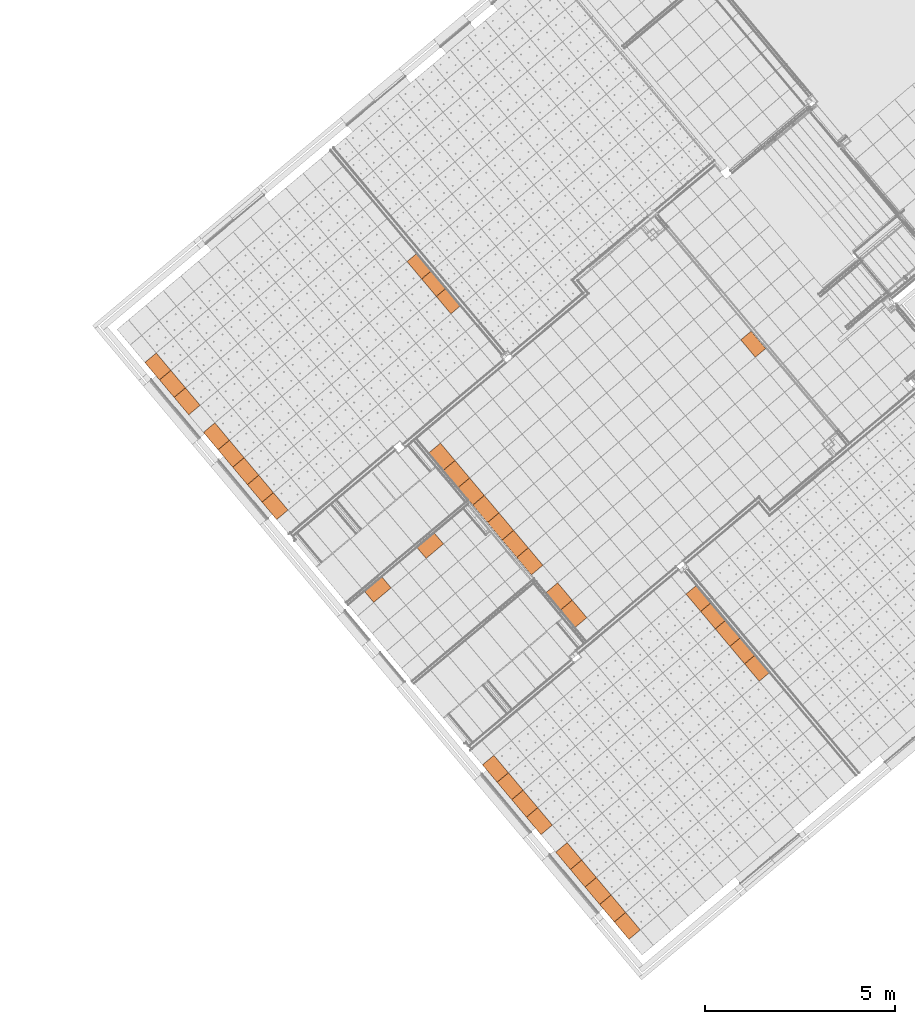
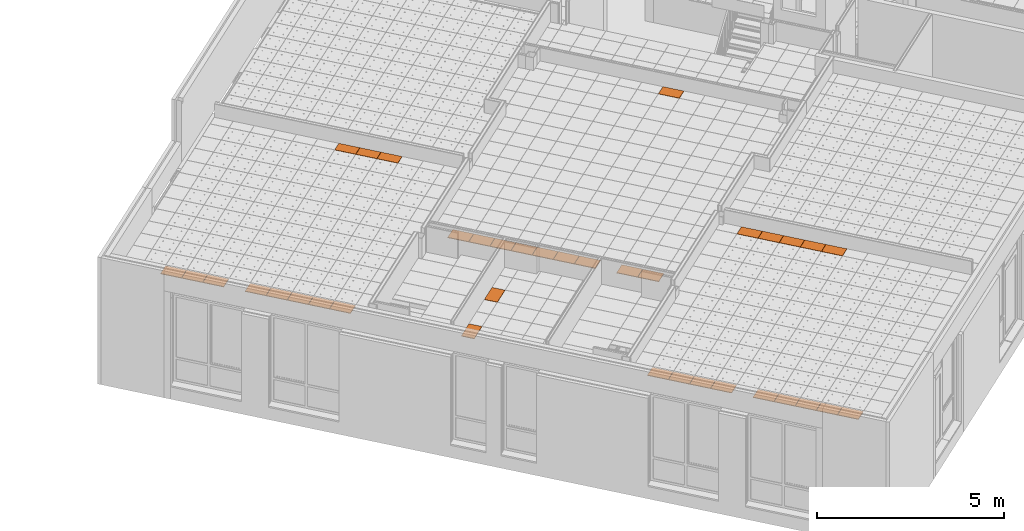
# One storey, part 199 of 338: 37 proxies, 4 elements without a shape of their own.
"""IFC2X3 building model written with IfcOpenShell, lengths in millimetres."""

from ifc_helpers import new_model, entity, si_unit, converted_unit, derived_unit, money_unit, direction, frame, origin_with_axes, place, context, subcontext, project, spatial, faceted_brep, source, transform, mapped, material, type_object, type_shapes, element, aggregate, save


model = new_model("IFC2X3")

# Units and contexts
model_context = context("Model", 3, precision=0.01, world=origin_with_axes(), true_north=direction((0.0, 1.0)))
plan_context = context("Plan", 3, precision=0.01, world=origin_with_axes(), true_north=direction((0.0, 1.0)))
body_context = subcontext(model_context, "Body", "Model", "MODEL_VIEW")
ifc_project = project(units=[si_unit("LENGTHUNIT", "METRE", prefix="MILLI"), si_unit("AREAUNIT", "SQUARE_METRE"), si_unit("VOLUMEUNIT", "CUBIC_METRE"), converted_unit("PLANEANGLEUNIT", "DEGREE", entity("IfcPlaneAngleMeasure", 0.0174532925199), si_unit("PLANEANGLEUNIT", "RADIAN"), dimensions=[0, 0, 0, 0, 0, 0, 0]), money_unit("EUR"), converted_unit("TIMEUNIT", "Year", entity("IfcTimeMeasure", 31556926.0), si_unit("TIMEUNIT", "SECOND"), dimensions=[0, 0, 1, 0, 0, 0, 0]), si_unit("MASSUNIT", "GRAM", prefix="KILO"), si_unit("THERMODYNAMICTEMPERATUREUNIT", "DEGREE_CELSIUS"), si_unit("LUMINOUSINTENSITYUNIT", "LUMEN"), si_unit("ENERGYUNIT", "JOULE", prefix="MEGA"), derived_unit("THERMALCONDUCTANCEUNIT", [(si_unit("POWERUNIT", "WATT"), 1), (si_unit("LENGTHUNIT", "METRE"), -1), (si_unit("THERMODYNAMICTEMPERATUREUNIT", "KELVIN"), -1)]), derived_unit("SPECIFICHEATCAPACITYUNIT", [(si_unit("ENERGYUNIT", "JOULE"), 1), (si_unit("MASSUNIT", "GRAM", prefix="KILO"), -1), (si_unit("THERMODYNAMICTEMPERATUREUNIT", "KELVIN"), -1)]), derived_unit("MASSDENSITYUNIT", [(si_unit("MASSUNIT", "GRAM", prefix="KILO"), 1), (si_unit("VOLUMEUNIT", "CUBIC_METRE"), -1)])], contexts=[model_context, plan_context])

# Site, building, storey
site_placement = place(None, origin_with_axes())
site = spatial("IfcSite", under=ifc_project, at=site_placement, Name="Fortuinstraat Woensdrecht", CompositionType="ELEMENT")
building_placement = place(site_placement, origin_with_axes())
building = spatial("IfcBuilding", under=site, at=building_placement, Name="IKC Fortuna", CompositionType="ELEMENT")
storey_placement = place(building_placement, origin_with_axes())
storey = spatial("IfcBuildingStorey", under=building, at=storey_placement, Name="00 begane grond", CompositionType="ELEMENT", Elevation=0.0)

# Covering, proxies
covering_type = type_object("IfcCoveringType", Name="Curtain Wall Type", PredefinedType="CEILING")
covering_1_placement = place(storey_placement, frame((17937.1227498, -4186.27868692, 4660.0), z_axis=(0.0, 0.0, 1.0), x_axis=(1.0, 0.0, 0.0)))
covering_1 = element("IfcCovering", 1, at=covering_1_placement, inside=storey, type_object=covering_type, Name="45_Plafondafwerking_P02", PredefinedType="CEILING")
ifc_material = material(Name="Gipsplaat")
building_element_proxy_type_1 = type_object("IfcBuildingElementProxyType", Name="Distinct Panel 400 x 600 x 20", PredefinedType="NOTDEFINED")
shared_shape_1 = source(origin_with_axes(), body_context, "Body", "Brep", [
    faceted_brep([(2.50000044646, 2.49999604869, -10.0), (397.271484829, 2.50000242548, -10.0), (397.271484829, 2.50000242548, 10.0), (2.50000044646, 2.49999604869, 10.0), (2.50000421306, 597.500005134, -10.0), (397.272026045, 597.500005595, -10.0), (397.272026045, 597.500005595, 10.0), (2.50000421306, 597.500005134, 10.0)], [[[0, 1, 2, 3]], [[0, 4, 5, 1]], [[1, 5, 6, 2]], [[3, 2, 6, 7]], [[4, 0, 3, 7]], [[5, 4, 7, 6]]]),
])
proxy_1_placement = place(covering_1_placement, frame((-8360.17692684, -148.758517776, 2.73558953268e-10), z_axis=(0.0, 0.0, 1.0), x_axis=(1.0, 0.0, 0.0)))
proxy_1 = element("IfcBuildingElementProxy", 2, at=proxy_1_placement, type_object=building_element_proxy_type_1, material=ifc_material, Name="__Panel-D", context=body_context, shape_type="MappedRepresentation", body=[
    mapped(shared_shape_1, transform((-39.7149099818, 358.297486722, 0.0), x_axis=(-0.766044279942, -0.642787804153, 0.0), y_axis=(0.642787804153, -0.766044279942, 0.0), z_axis=(0.0, 0.0, 1.0))),
])
proxy_2_placement = place(covering_1_placement, frame((-7974.50437441, -608.385194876, 2.73558953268e-10), z_axis=(0.0, 0.0, 1.0), x_axis=(1.0, 0.0, 0.0)))
proxy_2 = element("IfcBuildingElementProxy", 3, at=proxy_2_placement, type_object=building_element_proxy_type_1, material=ifc_material, Name="__Panel-D", context=body_context, shape_type="MappedRepresentation", body=[
    mapped(shared_shape_1, transform((-39.7147799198, 358.297595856, 0.0), x_axis=(-0.766044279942, -0.642787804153, 0.0), y_axis=(0.642787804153, -0.766044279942, 0.0), z_axis=(0.0, 0.0, 1.0))),
])
proxy_3_placement = place(covering_1_placement, frame((-7588.83174192, -1068.0118048, 2.73558953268e-10), z_axis=(0.0, 0.0, 1.0), x_axis=(1.0, 0.0, 0.0)))
proxy_3 = element("IfcBuildingElementProxy", 4, at=proxy_3_placement, type_object=building_element_proxy_type_1, material=ifc_material, Name="__Panel-D", context=body_context, shape_type="MappedRepresentation", body=[
    mapped(shared_shape_1, transform((-39.7147299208, 358.297637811, 0.0), x_axis=(-0.766044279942, -0.642787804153, 0.0), y_axis=(0.642787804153, -0.766044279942, 0.0), z_axis=(0.0, 0.0, 1.0))),
])
proxy_4_placement = place(covering_1_placement, frame((-7203.15913443, -1527.63843569, 2.73558953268e-10), z_axis=(0.0, 0.0, 1.0), x_axis=(1.0, 0.0, 0.0)))
proxy_4 = element("IfcBuildingElementProxy", 5, at=proxy_4_placement, type_object=building_element_proxy_type_1, material=ifc_material, Name="__Panel-D", context=body_context, shape_type="MappedRepresentation", body=[
    mapped(shared_shape_1, transform((-39.7146549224, 358.297700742, 0.0), x_axis=(-0.766044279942, -0.642787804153, 0.0), y_axis=(0.642787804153, -0.766044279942, 0.0), z_axis=(0.0, 0.0, 1.0))),
])
proxy_5_placement = place(covering_1_placement, frame((-6817.48652693, -1987.26506659, 2.73558953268e-10), z_axis=(0.0, 0.0, 1.0), x_axis=(1.0, 0.0, 0.0)))
proxy_5 = element("IfcBuildingElementProxy", 6, at=proxy_5_placement, type_object=building_element_proxy_type_1, material=ifc_material, Name="__Panel-D", context=body_context, shape_type="MappedRepresentation", body=[
    mapped(shared_shape_1, transform((-39.7145799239, 358.297763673, 0.0), x_axis=(-0.766044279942, -0.642787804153, 0.0), y_axis=(0.642787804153, -0.766044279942, 0.0), z_axis=(0.0, 0.0, 1.0))),
])
shared_shape_2 = source(origin_with_axes(), body_context, "Body", "Brep", [
    faceted_brep([(2.49999876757, 2.49999188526, -10.0), (397.27147848, 2.49999216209, -10.0), (397.27147848, 2.49999216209, 10.0), (2.49999876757, 2.49999188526, 10.0), (2.49999944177, 597.500002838, -10.0), (397.271479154, 597.500003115, -10.0), (397.271479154, 597.500003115, 10.0), (2.49999944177, 597.500002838, 10.0)], [[[0, 1, 2, 3]], [[0, 4, 5, 1]], [[1, 5, 6, 2]], [[3, 2, 6, 7]], [[4, 0, 3, 7]], [[5, 4, 7, 6]]]),
])
proxy_6_placement = place(covering_1_placement, frame((-8745.84950427, 310.868138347, 2.73558953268e-10), z_axis=(0.0, 0.0, 1.0), x_axis=(1.0, 0.0, 0.0)))
proxy_6 = element("IfcBuildingElementProxy", 7, at=proxy_6_placement, type_object=building_element_proxy_type_1, material=ifc_material, Name="__Panel-D", context=body_context, shape_type="MappedRepresentation", body=[
    mapped(shared_shape_2, transform((-39.7150150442, 358.297398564, 0.0), x_axis=(-0.766044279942, -0.642787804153, 0.0), y_axis=(0.642787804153, -0.766044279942, 0.0), z_axis=(0.0, 0.0, 1.0))),
])
proxy_7_placement = place(covering_1_placement, frame((-5660.46804434, -3366.14440538, 2.73558953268e-10), z_axis=(0.0, 0.0, 1.0), x_axis=(1.0, 0.0, 0.0)))
proxy_7 = element("IfcBuildingElementProxy", 8, at=proxy_7_placement, type_object=building_element_proxy_type_1, material=ifc_material, Name="__Panel-D", context=body_context, shape_type="MappedRepresentation", body=[
    mapped(shared_shape_2, transform((-39.7150150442, 358.297398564, 0.0), x_axis=(-0.766044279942, -0.642787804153, 0.0), y_axis=(0.642787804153, -0.766044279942, 0.0), z_axis=(0.0, 0.0, 1.0))),
])
shared_shape_3 = source(origin_with_axes(), body_context, "Body", "Brep", [
    faceted_brep([(2.50000039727, 2.49999382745, -10.0), (397.27148011, 2.49999410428, -10.0), (397.27148011, 2.49999410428, 10.0), (2.50000039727, 2.49999382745, 10.0), (2.50000107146, 597.500004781, -10.0), (397.271480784, 597.500005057, -10.0), (397.271480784, 597.500005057, 10.0), (2.50000107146, 597.500004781, 10.0)], [[[0, 1, 2, 3]], [[0, 4, 5, 1]], [[1, 5, 6, 2]], [[3, 2, 6, 7]], [[4, 0, 3, 7]], [[5, 4, 7, 6]]]),
])
type_shapes(building_element_proxy_type_1, [shared_shape_1, shared_shape_2, shared_shape_3])
proxy_8_placement = place(covering_1_placement, frame((-9131.52218676, 770.494706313, 2.73558953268e-10), z_axis=(0.0, 0.0, 1.0), x_axis=(1.0, 0.0, 0.0)))
proxy_8 = element("IfcBuildingElementProxy", 9, at=proxy_8_placement, type_object=building_element_proxy_type_1, material=ifc_material, Name="__Panel-D", context=body_context, shape_type="MappedRepresentation", body=[
    mapped(shared_shape_3, transform((-39.7150150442, 358.297398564, 0.0), x_axis=(-0.766044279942, -0.642787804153, 0.0), y_axis=(0.642787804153, -0.766044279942, 0.0), z_axis=(0.0, 0.0, 1.0))),
])
proxy_9_placement = place(covering_1_placement, frame((-6046.14072683, -2906.51783741, 2.73558953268e-10), z_axis=(0.0, 0.0, 1.0), x_axis=(1.0, 0.0, 0.0)))
proxy_9 = element("IfcBuildingElementProxy", 10, at=proxy_9_placement, type_object=building_element_proxy_type_1, material=ifc_material, Name="__Panel-D", context=body_context, shape_type="MappedRepresentation", body=[
    mapped(shared_shape_3, transform((-39.7150150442, 358.297398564, 0.0), x_axis=(-0.766044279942, -0.642787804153, 0.0), y_axis=(0.642787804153, -0.766044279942, 0.0), z_axis=(0.0, 0.0, 1.0))),
])
building_element_proxy_type_2 = type_object("IfcBuildingElementProxyType", Name="Distinct Panel 360 x 600 x 20", PredefinedType="NOTDEFINED")
shared_shape_4 = source(origin_with_axes(), body_context, "Body", "Brep", [
    faceted_brep([(242.243727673, 2.50000936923, -10.0), (597.499997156, 2.50000349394, -10.0), (597.499997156, 2.50000349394, 10.0), (242.243727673, 2.50000936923, 10.0), (242.243731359, 597.499993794, -10.0), (597.500000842, 597.499987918, -10.0), (597.500000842, 597.499987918, 10.0), (242.243731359, 597.499993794, 10.0)], [[[0, 1, 2, 3]], [[0, 4, 5, 1]], [[1, 5, 6, 2]], [[3, 2, 6, 7]], [[4, 0, 3, 7]], [[5, 4, 7, 6]]]),
])
type_shapes(building_element_proxy_type_2, [shared_shape_4])
proxy_10_placement = place(covering_1_placement, frame((-936.90593783, 3730.37502119, 0.0), z_axis=(0.0, 0.0, 1.0), x_axis=(1.0, 0.0, 0.0)))
proxy_10 = element("IfcBuildingElementProxy", 11, at=proxy_10_placement, type_object=building_element_proxy_type_2, material=ifc_material, Name="__Panel-D", context=body_context, shape_type="MappedRepresentation", body=[
    mapped(shared_shape_4, transform((128.804099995, 499.70179874, 0.0), x_axis=(-0.766044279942, -0.642787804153, 0.0), y_axis=(0.642787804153, -0.766044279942, 0.0), z_axis=(0.0, 0.0, 1.0))),
])
aggregate(covering_1, [proxy_1, proxy_6, proxy_8, proxy_7, proxy_9, proxy_10, proxy_2, proxy_3, proxy_4, proxy_5])

covering_2_placement = place(storey_placement, frame((9775.85169731, -1002.28242867, 4660.0), z_axis=(0.0, 0.0, 1.0), x_axis=(1.0, 0.0, 0.0)))
covering_2 = element("IfcCovering", 12, at=covering_2_placement, inside=storey, type_object=covering_type, Name="45_Plafondafwerking_P01", PredefinedType="CEILING")
building_element_proxy_type_3 = type_object("IfcBuildingElementProxyType", Name="394 x 600 x 20", PredefinedType="NOTDEFINED")
shared_shape_5 = source(origin_with_axes(), body_context, "Body", "Brep", [
    faceted_brep([(2.49999890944, 2.4999915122, -10.0), (391.98041111, 2.49999996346, -10.0), (391.98041111, 2.49999996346, 10.0), (2.49999890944, 2.4999915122, 10.0), (2.49999526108, 597.500001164, -10.0), (391.980415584, 597.500002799, -10.0), (391.980415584, 597.500002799, 10.0), (2.49999526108, 597.500001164, 10.0)], [[[0, 1, 2, 3]], [[0, 4, 5, 1]], [[1, 5, 6, 2]], [[3, 2, 6, 7]], [[4, 0, 3, 7]], [[5, 4, 7, 6]]]),
])
proxy_11_placement = place(covering_2_placement, frame((-6905.53712341, -1878.21390927, 2.32702745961e-10), z_axis=(0.0, 0.0, 1.0), x_axis=(1.0, 0.0, 0.0)))
proxy_11 = element("IfcBuildingElementProxy", 13, at=proxy_11_placement, type_object=building_element_proxy_type_3, material=ifc_material, Name="__600x606 Rockfon Krios", context=body_context, shape_type="MappedRepresentation", body=[
    mapped(shared_shape_5, transform((-41.7416082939, 356.596884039, 0.0), x_axis=(-0.766044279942, -0.642787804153, 0.0), y_axis=(0.642787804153, -0.766044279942, 0.0), z_axis=(0.0, 0.0, 1.0))),
])
proxy_12_placement = place(covering_2_placement, frame((-6519.86444092, -2337.84047724, 2.32702745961e-10), z_axis=(0.0, 0.0, 1.0), x_axis=(1.0, 0.0, 0.0)))
proxy_12 = element("IfcBuildingElementProxy", 14, at=proxy_12_placement, type_object=building_element_proxy_type_3, material=ifc_material, Name="__600x621 Rockfon Krios", context=body_context, shape_type="MappedRepresentation", body=[
    mapped(shared_shape_5, transform((-41.7416082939, 356.596884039, 0.0), x_axis=(-0.766044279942, -0.642787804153, 0.0), y_axis=(0.642787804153, -0.766044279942, 0.0), z_axis=(0.0, 0.0, 1.0))),
])
proxy_13_placement = place(covering_2_placement, frame((-5362.84639345, -3716.72018113, 2.32702745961e-10), z_axis=(0.0, 0.0, 1.0), x_axis=(1.0, 0.0, 0.0)))
proxy_13 = element("IfcBuildingElementProxy", 15, at=proxy_13_placement, type_object=building_element_proxy_type_3, material=ifc_material, Name="__600x652 Rockfon Krios", context=body_context, shape_type="MappedRepresentation", body=[
    mapped(shared_shape_5, transform((-41.7416082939, 356.596884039, 0.0), x_axis=(-0.766044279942, -0.642787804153, 0.0), y_axis=(0.642787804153, -0.766044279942, 0.0), z_axis=(0.0, 0.0, 1.0))),
])
proxy_14_placement = place(covering_2_placement, frame((-5748.51907594, -3257.09361317, 2.32702745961e-10), z_axis=(0.0, 0.0, 1.0), x_axis=(1.0, 0.0, 0.0)))
proxy_14 = element("IfcBuildingElementProxy", 16, at=proxy_14_placement, type_object=building_element_proxy_type_3, material=ifc_material, Name="__600x659 Rockfon Krios", context=body_context, shape_type="MappedRepresentation", body=[
    mapped(shared_shape_5, transform((-41.7416082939, 356.596884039, 0.0), x_axis=(-0.766044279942, -0.642787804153, 0.0), y_axis=(0.642787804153, -0.766044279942, 0.0), z_axis=(0.0, 0.0, 1.0))),
])
proxy_15_placement = place(covering_2_placement, frame((-6134.19175843, -2797.4670452, 2.32702745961e-10), z_axis=(0.0, 0.0, 1.0), x_axis=(1.0, 0.0, 0.0)))
proxy_15 = element("IfcBuildingElementProxy", 17, at=proxy_15_placement, type_object=building_element_proxy_type_3, material=ifc_material, Name="__600x670 Rockfon Krios", context=body_context, shape_type="MappedRepresentation", body=[
    mapped(shared_shape_5, transform((-41.7416082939, 356.596884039, 0.0), x_axis=(-0.766044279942, -0.642787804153, 0.0), y_axis=(0.642787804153, -0.766044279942, 0.0), z_axis=(0.0, 0.0, 1.0))),
])
proxy_16_placement = place(covering_2_placement, frame((-7676.8824884, -958.96077334, 2.32702745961e-10), z_axis=(0.0, 0.0, 1.0), x_axis=(1.0, 0.0, 0.0)))
proxy_16 = element("IfcBuildingElementProxy", 18, at=proxy_16_placement, type_object=building_element_proxy_type_3, material=ifc_material, Name="__600x717 Rockfon Krios", context=body_context, shape_type="MappedRepresentation", body=[
    mapped(shared_shape_5, transform((-41.7416082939, 356.596884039, 0.0), x_axis=(-0.766044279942, -0.642787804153, 0.0), y_axis=(0.642787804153, -0.766044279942, 0.0), z_axis=(0.0, 0.0, 1.0))),
])
shared_shape_6 = source(origin_with_axes(), body_context, "Body", "Brep", [
    faceted_brep([(2.50000085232, 2.50001032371, -10.0), (391.98041436, 2.50000383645, -10.0), (391.98041436, 2.50000383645, 10.0), (2.50000085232, 2.50001032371, 10.0), (2.4999985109, 597.500005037, -10.0), (391.980418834, 597.500006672, -10.0), (391.980418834, 597.500006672, 10.0), (2.4999985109, 597.500005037, 10.0)], [[[0, 1, 2, 3]], [[0, 4, 5, 1]], [[1, 5, 6, 2]], [[3, 2, 6, 7]], [[4, 0, 3, 7]], [[5, 4, 7, 6]]]),
])
type_shapes(building_element_proxy_type_3, [shared_shape_5, shared_shape_6])
proxy_17_placement = place(covering_2_placement, frame((-8062.55517089, -499.334205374, 2.32702745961e-10), z_axis=(0.0, 0.0, 1.0), x_axis=(1.0, 0.0, 0.0)))
proxy_17 = element("IfcBuildingElementProxy", 19, at=proxy_17_placement, type_object=building_element_proxy_type_3, material=ifc_material, Name="__600x617 Rockfon Krios", context=body_context, shape_type="MappedRepresentation", body=[
    mapped(shared_shape_6, transform((-41.7416082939, 356.596884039, 0.0), x_axis=(-0.766044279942, -0.642787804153, 0.0), y_axis=(0.642787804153, -0.766044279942, 0.0), z_axis=(0.0, 0.0, 1.0))),
])
proxy_18_placement = place(covering_2_placement, frame((-8448.22785338, -39.7076374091, 2.32702745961e-10), z_axis=(0.0, 0.0, 1.0), x_axis=(1.0, 0.0, 0.0)))
proxy_18 = element("IfcBuildingElementProxy", 20, at=proxy_18_placement, type_object=building_element_proxy_type_3, material=ifc_material, Name="__600x631 Rockfon Krios", context=body_context, shape_type="MappedRepresentation", body=[
    mapped(shared_shape_6, transform((-41.7416082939, 356.596884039, 0.0), x_axis=(-0.766044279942, -0.642787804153, 0.0), y_axis=(0.642787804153, -0.766044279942, 0.0), z_axis=(0.0, 0.0, 1.0))),
])
building_element_proxy_type_4 = type_object("IfcBuildingElementProxyType", Name="330 x 600 x 20", PredefinedType="NOTDEFINED")
shared_shape_7 = source(origin_with_axes(), body_context, "Body", "Brep", [
    faceted_brep([(272.019603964, 2.49999411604, -10.0), (597.499999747, 2.50000859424, -10.0), (597.499999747, 2.50000859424, 10.0), (272.019603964, 2.49999411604, 10.0), (272.019596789, 597.499992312, -10.0), (597.499992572, 597.50000679, -10.0), (597.499992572, 597.50000679, 10.0), (272.019596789, 597.499992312, 10.0)], [[[0, 1, 2, 3]], [[0, 4, 5, 1]], [[1, 5, 6, 2]], [[3, 2, 6, 7]], [[4, 0, 3, 7]], [[5, 4, 7, 6]]]),
])
type_shapes(building_element_proxy_type_4, [shared_shape_7])
proxy_19_placement = place(covering_2_placement, frame((-1571.9688342, 2597.18358235, 0.0), z_axis=(0.0, 0.0, 1.0), x_axis=(1.0, 0.0, 0.0)))
proxy_19 = element("IfcBuildingElementProxy", 21, at=proxy_19_placement, type_object=building_element_proxy_type_4, material=ifc_material, Name="__600x657 Rockfon Krios", context=body_context, shape_type="MappedRepresentation", body=[
    mapped(shared_shape_7, transform((140.208918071, 509.271582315, 0.0), x_axis=(-0.766044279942, -0.642787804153, 0.0), y_axis=(0.642787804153, -0.766044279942, 0.0), z_axis=(0.0, 0.0, 1.0))),
])
proxy_20_placement = place(covering_2_placement, frame((-800.623469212, 1677.93044642, 0.0), z_axis=(0.0, 0.0, 1.0), x_axis=(1.0, 0.0, 0.0)))
proxy_20 = element("IfcBuildingElementProxy", 22, at=proxy_20_placement, type_object=building_element_proxy_type_4, material=ifc_material, Name="__600x744 Rockfon Krios", context=body_context, shape_type="MappedRepresentation", body=[
    mapped(shared_shape_7, transform((140.208918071, 509.271582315, 0.0), x_axis=(-0.766044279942, -0.642787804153, 0.0), y_axis=(0.642787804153, -0.766044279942, 0.0), z_axis=(0.0, 0.0, 1.0))),
])
proxy_21_placement = place(covering_2_placement, frame((-1186.2961517, 2137.55701439, 0.0), z_axis=(0.0, 0.0, 1.0), x_axis=(1.0, 0.0, 0.0)))
proxy_21 = element("IfcBuildingElementProxy", 23, at=proxy_21_placement, type_object=building_element_proxy_type_4, material=ifc_material, Name="__600x753 Rockfon Krios", context=body_context, shape_type="MappedRepresentation", body=[
    mapped(shared_shape_7, transform((140.208918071, 509.271582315, 0.0), x_axis=(-0.766044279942, -0.642787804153, 0.0), y_axis=(0.642787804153, -0.766044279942, 0.0), z_axis=(0.0, 0.0, 1.0))),
])
aggregate(covering_2, [proxy_11, proxy_17, proxy_12, proxy_18, proxy_13, proxy_19, proxy_14, proxy_15, proxy_16, proxy_20, proxy_21])

covering_3_placement = place(storey_placement, frame((6990.12644751, -7663.89158706, 4260.0), z_axis=(0.0, 0.0, 1.0), x_axis=(1.0, 0.0, 0.0)))
covering_3 = element("IfcCovering", 24, at=covering_3_placement, inside=storey, type_object=covering_type, Name="45_Plafondafwerking_P02", PredefinedType="CEILING")
building_element_proxy_type_5 = type_object("IfcBuildingElementProxyType", Name="Distinct Panel 600 x 375 x 20", PredefinedType="NOTDEFINED")
shared_shape_8 = source(origin_with_axes(), body_context, "Body", "Brep", [
    faceted_brep([(2.49999155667, 227.548183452, -10.0), (597.500003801, 227.548212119, -10.0), (597.500003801, 227.548212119, 10.0), (2.49999155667, 227.548183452, 10.0), (2.4999923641, 597.500000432, -10.0), (597.499999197, 597.500006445, -10.0), (597.499999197, 597.500006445, 10.0), (2.4999923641, 597.500000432, 10.0)], [[[0, 1, 2, 3]], [[0, 4, 5, 1]], [[1, 5, 6, 2]], [[3, 2, 6, 7]], [[4, 0, 3, 7]], [[5, 4, 7, 6]]]),
])
type_shapes(building_element_proxy_type_5, [shared_shape_8])
proxy_22_placement = place(covering_3_placement, frame((129.807538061, 745.276243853, 1.05693231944e-10), z_axis=(0.0, 0.0, 1.0), x_axis=(1.0, 0.0, 0.0)))
proxy_22 = element("IfcBuildingElementProxy", 25, at=proxy_22_placement, type_object=building_element_proxy_type_5, material=ifc_material, Name="__Panel-D", context=body_context, shape_type="MappedRepresentation", body=[
    mapped(shared_shape_8, transform((-35.3521756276, 508.848067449, 0.0), x_axis=(-0.766044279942, -0.642787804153, 0.0), y_axis=(0.642787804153, -0.766044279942, 0.0), z_axis=(0.0, 0.0, 1.0))),
])
proxy_23_placement = place(covering_3_placement, frame((1508.68723652, 1902.29429781, 0.0), z_axis=(0.0, 0.0, 1.0), x_axis=(1.0, 0.0, 0.0)))
proxy_23 = element("IfcBuildingElementProxy", 26, at=proxy_23_placement, type_object=building_element_proxy_type_5, material=ifc_material, Name="__Panel-D", context=body_context, shape_type="MappedRepresentation", body=[
    mapped(shared_shape_8, transform((-35.3521701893, 508.848060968, 0.0), x_axis=(-0.766044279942, -0.642787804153, 0.0), y_axis=(0.642787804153, -0.766044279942, 0.0), z_axis=(0.0, 0.0, 1.0))),
])
aggregate(covering_3, [proxy_22, proxy_23])

covering_4_placement = place(storey_placement, frame((15150.6418133, -6622.13986243, 4660.0), z_axis=(0.0, 0.0, 1.0), x_axis=(1.0, 0.0, 0.0)))
covering_4 = element("IfcCovering", 27, at=covering_4_placement, inside=storey, type_object=covering_type, Name="45_Plafondafwerking_P01", PredefinedType="CEILING")
building_element_proxy_type_6 = type_object("IfcBuildingElementProxyType", Name="356 x 600 x 20", PredefinedType="NOTDEFINED")
shared_shape_9 = source(origin_with_axes(), body_context, "Body", "Brep", [
    faceted_brep([(246.997827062, 2.50000303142, -10.0), (597.499992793, 2.49999403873, -10.0), (597.499992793, 2.49999403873, 10.0), (246.997827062, 2.50000303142, 10.0), (246.997828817, 597.499998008, -10.0), (597.500001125, 597.499996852, -10.0), (597.500001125, 597.499996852, 10.0), (246.997828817, 597.499998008, 10.0)], [[[0, 1, 2, 3]], [[0, 4, 5, 1]], [[1, 5, 6, 2]], [[3, 2, 6, 7]], [[4, 0, 3, 7]], [[5, 4, 7, 6]]]),
])
proxy_24_placement = place(covering_4_placement, frame((406.629169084, -526.892343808, 0.0), z_axis=(0.0, 0.0, 1.0), x_axis=(1.0, 0.0, 0.0)))
proxy_24 = element("IfcBuildingElementProxy", 28, at=proxy_24_placement, type_object=building_element_proxy_type_6, material=ifc_material, Name="__600x661 Rockfon Krios", context=body_context, shape_type="MappedRepresentation", body=[
    mapped(shared_shape_9, transform((130.62502513, 501.229737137, 0.0), x_axis=(-0.766044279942, -0.642787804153, 0.0), y_axis=(0.642787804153, -0.766044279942, 0.0), z_axis=(0.0, 0.0, 1.0))),
])
building_element_proxy_type_7 = type_object("IfcBuildingElementProxyType", Name="395 x 600 x 20", PredefinedType="NOTDEFINED")
shared_shape_10 = source(origin_with_axes(), body_context, "Body", "Brep", [
    faceted_brep([(2.50000037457, 2.50001052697, -10.0), (392.000410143, 2.49999399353, -10.0), (392.000410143, 2.49999399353, 10.0), (2.50000037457, 2.50001052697, 10.0), (2.50000369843, 597.500019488, -10.0), (392.000405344, 597.500009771, -10.0), (392.000405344, 597.500009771, 10.0), (2.50000369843, 597.500019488, 10.0)], [[[0, 1, 2, 3]], [[0, 4, 5, 1]], [[1, 5, 6, 2]], [[3, 2, 6, 7]], [[4, 0, 3, 7]], [[5, 4, 7, 6]]]),
])
proxy_25_placement = place(covering_4_placement, frame((-4936.53066976, -5010.33810534, 2.33590924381e-10), z_axis=(0.0, 0.0, 1.0), x_axis=(1.0, 0.0, 0.0)))
proxy_25 = element("IfcBuildingElementProxy", 29, at=proxy_25_placement, type_object=building_element_proxy_type_7, material=ifc_material, Name="__600x621 Rockfon Krios", context=body_context, shape_type="MappedRepresentation", body=[
    mapped(shared_shape_10, transform((-41.7339516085, 356.603308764, 0.0), x_axis=(-0.766044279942, -0.642787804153, 0.0), y_axis=(0.642787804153, -0.766044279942, 0.0), z_axis=(0.0, 0.0, 1.0))),
])
proxy_26_placement = place(covering_4_placement, frame((-1465.47652734, -9146.97721702, 2.33590924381e-10), z_axis=(0.0, 0.0, 1.0), x_axis=(1.0, 0.0, 0.0)))
proxy_26 = element("IfcBuildingElementProxy", 30, at=proxy_26_placement, type_object=building_element_proxy_type_7, material=ifc_material, Name="__600x623 Rockfon Krios", context=body_context, shape_type="MappedRepresentation", body=[
    mapped(shared_shape_10, transform((-41.7339516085, 356.603308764, 0.0), x_axis=(-0.766044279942, -0.642787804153, 0.0), y_axis=(0.642787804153, -0.766044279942, 0.0), z_axis=(0.0, 0.0, 1.0))),
])
proxy_27_placement = place(covering_4_placement, frame((-3008.1672573, -7308.47094516, 2.33590924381e-10), z_axis=(0.0, 0.0, 1.0), x_axis=(1.0, 0.0, 0.0)))
proxy_27 = element("IfcBuildingElementProxy", 31, at=proxy_27_placement, type_object=building_element_proxy_type_7, material=ifc_material, Name="__600x631 Rockfon Krios", context=body_context, shape_type="MappedRepresentation", body=[
    mapped(shared_shape_10, transform((-41.7339516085, 356.603308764, 0.0), x_axis=(-0.766044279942, -0.642787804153, 0.0), y_axis=(0.642787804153, -0.766044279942, 0.0), z_axis=(0.0, 0.0, 1.0))),
])
proxy_28_placement = place(covering_4_placement, frame((-4165.18530478, -5929.59124127, 2.33590924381e-10), z_axis=(0.0, 0.0, 1.0), x_axis=(1.0, 0.0, 0.0)))
proxy_28 = element("IfcBuildingElementProxy", 32, at=proxy_28_placement, type_object=building_element_proxy_type_7, material=ifc_material, Name="__600x635 Rockfon Krios", context=body_context, shape_type="MappedRepresentation", body=[
    mapped(shared_shape_10, transform((-41.7339516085, 356.603308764, 0.0), x_axis=(-0.766044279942, -0.642787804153, 0.0), y_axis=(0.642787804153, -0.766044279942, 0.0), z_axis=(0.0, 0.0, 1.0))),
])
proxy_29_placement = place(covering_4_placement, frame((-1851.14920983, -8687.35064906, 2.33590924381e-10), z_axis=(0.0, 0.0, 1.0), x_axis=(1.0, 0.0, 0.0)))
proxy_29 = element("IfcBuildingElementProxy", 33, at=proxy_29_placement, type_object=building_element_proxy_type_7, material=ifc_material, Name="__600x670 Rockfon Krios", context=body_context, shape_type="MappedRepresentation", body=[
    mapped(shared_shape_10, transform((-41.7339516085, 356.603308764, 0.0), x_axis=(-0.766044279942, -0.642787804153, 0.0), y_axis=(0.642787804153, -0.766044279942, 0.0), z_axis=(0.0, 0.0, 1.0))),
])
proxy_30_placement = place(covering_4_placement, frame((-4550.85798727, -5469.9646733, 2.33590924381e-10), z_axis=(0.0, 0.0, 1.0), x_axis=(1.0, 0.0, 0.0)))
proxy_30 = element("IfcBuildingElementProxy", 34, at=proxy_30_placement, type_object=building_element_proxy_type_7, material=ifc_material, Name="__600x717 Rockfon Krios", context=body_context, shape_type="MappedRepresentation", body=[
    mapped(shared_shape_10, transform((-41.7339516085, 356.603308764, 0.0), x_axis=(-0.766044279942, -0.642787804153, 0.0), y_axis=(0.642787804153, -0.766044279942, 0.0), z_axis=(0.0, 0.0, 1.0))),
])
proxy_31_placement = place(covering_4_placement, frame((-2622.49457481, -7768.09751313, 2.33590924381e-10), z_axis=(0.0, 0.0, 1.0), x_axis=(1.0, 0.0, 0.0)))
proxy_31 = element("IfcBuildingElementProxy", 35, at=proxy_31_placement, type_object=building_element_proxy_type_7, material=ifc_material, Name="__600x744 Rockfon Krios", context=body_context, shape_type="MappedRepresentation", body=[
    mapped(shared_shape_10, transform((-41.7339516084, 356.603308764, 0.0), x_axis=(-0.766044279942, -0.642787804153, 0.0), y_axis=(0.642787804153, -0.766044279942, 0.0), z_axis=(0.0, 0.0, 1.0))),
])
shared_shape_11 = source(origin_with_axes(), body_context, "Body", "Brep", [
    faceted_brep([(246.997828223, 2.50000441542, -10.0), (597.499993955, 2.49999542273, -10.0), (597.499993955, 2.49999542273, 10.0), (246.997828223, 2.50000441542, 10.0), (246.997829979, 597.499999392, -10.0), (597.500002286, 597.499998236, -10.0), (597.500002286, 597.499998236, 10.0), (246.997829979, 597.499999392, 10.0)], [[[0, 1, 2, 3]], [[0, 4, 5, 1]], [[1, 5, 6, 2]], [[3, 2, 6, 7]], [[4, 0, 3, 7]], [[5, 4, 7, 6]]]),
])
proxy_32_placement = place(covering_4_placement, frame((1949.31989905, -2365.39861567, 0.0), z_axis=(0.0, 0.0, 1.0), x_axis=(1.0, 0.0, 0.0)))
proxy_32 = element("IfcBuildingElementProxy", 36, at=proxy_32_placement, type_object=building_element_proxy_type_6, material=ifc_material, Name="__600x657 Rockfon Krios", context=body_context, shape_type="MappedRepresentation", body=[
    mapped(shared_shape_11, transform((130.62502513, 501.229737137, 0.0), x_axis=(-0.766044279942, -0.642787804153, 0.0), y_axis=(0.642787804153, -0.766044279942, 0.0), z_axis=(0.0, 0.0, 1.0))),
])
proxy_33_placement = place(covering_4_placement, frame((1563.64721656, -1905.7720477, 0.0), z_axis=(0.0, 0.0, 1.0), x_axis=(1.0, 0.0, 0.0)))
proxy_33 = element("IfcBuildingElementProxy", 37, at=proxy_33_placement, type_object=building_element_proxy_type_6, material=ifc_material, Name="__600x687 Rockfon Krios", context=body_context, shape_type="MappedRepresentation", body=[
    mapped(shared_shape_11, transform((130.62502513, 501.229737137, 0.0), x_axis=(-0.766044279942, -0.642787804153, 0.0), y_axis=(0.642787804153, -0.766044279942, 0.0), z_axis=(0.0, 0.0, 1.0))),
])
shared_shape_12 = source(origin_with_axes(), body_context, "Body", "Brep", [
    faceted_brep([(2.49999852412, 2.49999182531, -10.0), (392.000406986, 2.49999023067, -10.0), (392.000406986, 2.49999023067, 10.0), (2.49999852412, 2.49999182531, 10.0), (2.50000866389, 597.500008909, -10.0), (392.000402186, 597.500006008, -10.0), (392.000402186, 597.500006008, 10.0), (2.50000866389, 597.500008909, 10.0)], [[[0, 1, 2, 3]], [[0, 4, 5, 1]], [[1, 5, 6, 2]], [[3, 2, 6, 7]], [[4, 0, 3, 7]], [[5, 4, 7, 6]]]),
])
type_shapes(building_element_proxy_type_7, [shared_shape_10, shared_shape_12])
proxy_34_placement = place(covering_4_placement, frame((-3779.51262229, -6389.21780923, 2.33590924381e-10), z_axis=(0.0, 0.0, 1.0), x_axis=(1.0, 0.0, 0.0)))
proxy_34 = element("IfcBuildingElementProxy", 38, at=proxy_34_placement, type_object=building_element_proxy_type_7, material=ifc_material, Name="__600x636 Rockfon Krios", context=body_context, shape_type="MappedRepresentation", body=[
    mapped(shared_shape_12, transform((-41.7339516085, 356.603308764, 0.0), x_axis=(-0.766044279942, -0.642787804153, 0.0), y_axis=(0.642787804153, -0.766044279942, 0.0), z_axis=(0.0, 0.0, 1.0))),
])
proxy_35_placement = place(covering_4_placement, frame((-2236.82189232, -8227.72408109, 2.33590924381e-10), z_axis=(0.0, 0.0, 1.0), x_axis=(1.0, 0.0, 0.0)))
proxy_35 = element("IfcBuildingElementProxy", 39, at=proxy_35_placement, type_object=building_element_proxy_type_7, material=ifc_material, Name="__600x652 Rockfon Krios", context=body_context, shape_type="MappedRepresentation", body=[
    mapped(shared_shape_12, transform((-41.7339516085, 356.603308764, 0.0), x_axis=(-0.766044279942, -0.642787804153, 0.0), y_axis=(0.642787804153, -0.766044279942, 0.0), z_axis=(0.0, 0.0, 1.0))),
])
shared_shape_13 = source(origin_with_axes(), body_context, "Body", "Brep", [
    faceted_brep([(246.997828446, 2.50000187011, -10.0), (597.500000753, 2.50000071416, -10.0), (597.500000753, 2.50000071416, 10.0), (246.997828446, 2.50000187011, 10.0), (246.997830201, 597.499996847, -10.0), (597.500002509, 597.499995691, -10.0), (597.500002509, 597.499995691, 10.0), (246.997830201, 597.499996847, 10.0)], [[[0, 1, 2, 3]], [[0, 4, 5, 1]], [[1, 5, 6, 2]], [[3, 2, 6, 7]], [[4, 0, 3, 7]], [[5, 4, 7, 6]]]),
])
type_shapes(building_element_proxy_type_6, [shared_shape_9, shared_shape_11, shared_shape_13])
proxy_36_placement = place(covering_4_placement, frame((792.301851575, -986.518911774, 0.0), z_axis=(0.0, 0.0, 1.0), x_axis=(1.0, 0.0, 0.0)))
proxy_36 = element("IfcBuildingElementProxy", 40, at=proxy_36_placement, type_object=building_element_proxy_type_6, material=ifc_material, Name="__600x655 Rockfon Krios", context=body_context, shape_type="MappedRepresentation", body=[
    mapped(shared_shape_13, transform((130.62502513, 501.229737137, 0.0), x_axis=(-0.766044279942, -0.642787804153, 0.0), y_axis=(0.642787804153, -0.766044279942, 0.0), z_axis=(0.0, 0.0, 1.0))),
])
proxy_37_placement = place(covering_4_placement, frame((1177.97453407, -1446.14547974, 0.0), z_axis=(0.0, 0.0, 1.0), x_axis=(1.0, 0.0, 0.0)))
proxy_37 = element("IfcBuildingElementProxy", 41, at=proxy_37_placement, type_object=building_element_proxy_type_6, material=ifc_material, Name="__600x659 Rockfon Krios", context=body_context, shape_type="MappedRepresentation", body=[
    mapped(shared_shape_13, transform((130.62502513, 501.229737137, 0.0), x_axis=(-0.766044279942, -0.642787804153, 0.0), y_axis=(0.642787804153, -0.766044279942, 0.0), z_axis=(0.0, 0.0, 1.0))),
])
aggregate(covering_4, [proxy_25, proxy_26, proxy_27, proxy_28, proxy_34, proxy_35, proxy_36, proxy_32, proxy_37, proxy_24, proxy_29, proxy_33, proxy_30, proxy_31])

save(model, "model.ifc")
